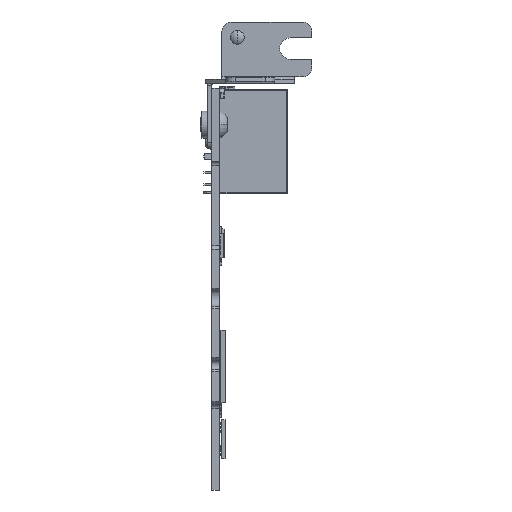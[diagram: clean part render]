
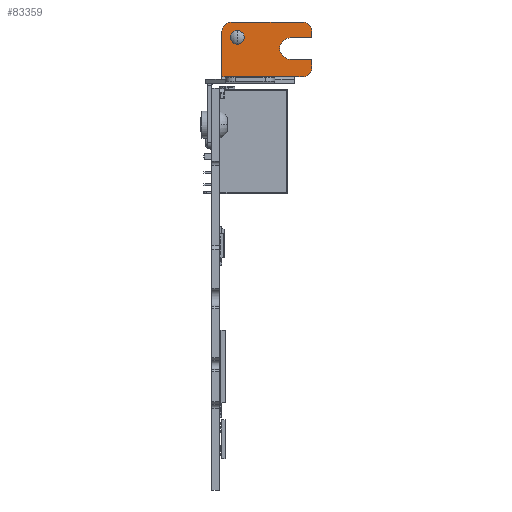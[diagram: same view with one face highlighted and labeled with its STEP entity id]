
A CAD part, front view. The second image highlights one B-rep face of the part: STEP entity #83359.
In plain terms, the highlighted planar face has unit normal (0, -1, 0).
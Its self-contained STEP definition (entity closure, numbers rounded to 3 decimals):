
#447 = VECTOR ( 'NONE', #143612, 1000. ) ;
#452 = CARTESIAN_POINT ( 'NONE',  ( -5.804, 0., 0.5 ) ) ;
#587 = LINE ( 'NONE', #91676, #52734 ) ;
#865 = VECTOR ( 'NONE', #113033, 1000. ) ;
#2711 = DIRECTION ( 'NONE',  ( 1., 0., 0. ) ) ;
#5471 = ORIENTED_EDGE ( 'NONE', *, *, #27098, .F. ) ;
#5554 = LINE ( 'NONE', #28922, #148495 ) ;
#6071 = VERTEX_POINT ( 'NONE', #39357 ) ;
#10633 = LINE ( 'NONE', #89658, #865 ) ;
#11997 = DIRECTION ( 'NONE',  ( -1., 0., 0. ) ) ;
#14680 = DIRECTION ( 'NONE',  ( 0., -1., 0. ) ) ;
#15472 = CARTESIAN_POINT ( 'NONE',  ( 12.789, 0., 8.56 ) ) ;
#15911 = VERTEX_POINT ( 'NONE', #87518 ) ;
#17505 = VERTEX_POINT ( 'NONE', #109790 ) ;
#19774 = CIRCLE ( 'NONE', #38972, 2. ) ;
#22934 = EDGE_CURVE ( 'NONE', #42030, #30703, #19774, .T. ) ;
#25194 = CARTESIAN_POINT ( 'NONE',  ( 12.789, 0., 4.14 ) ) ;
#26619 = ORIENTED_EDGE ( 'NONE', *, *, #34696, .F. ) ;
#27098 = EDGE_CURVE ( 'NONE', #51991, #51183, #587, .T. ) ;
#27418 = DIRECTION ( 'NONE',  ( 0., 0., 1. ) ) ;
#27427 = EDGE_CURVE ( 'NONE', #6071, #147705, #141873, .T. ) ;
#27656 = CARTESIAN_POINT ( 'NONE',  ( 12.789, 0., 11.836 ) ) ;
#28176 = EDGE_LOOP ( 'NONE', ( #110147, #109555, #57542, #111100, #74992, #142267, #5471, #83863, #100131, #123953, #104645, #104388 ) ) ;
#28591 = CARTESIAN_POINT ( 'NONE',  ( -2.624, 0., 8.66 ) ) ;
#28652 = CARTESIAN_POINT ( 'NONE',  ( 9.207, 0., 0.5 ) ) ;
#28922 = CARTESIAN_POINT ( 'NONE',  ( -5.804, 0., 11.836 ) ) ;
#30609 = DIRECTION ( 'NONE',  ( 0., -1., 0. ) ) ;
#30703 = VERTEX_POINT ( 'NONE', #61024 ) ;
#34461 = DIRECTION ( 'NONE',  ( 0., 0., -1. ) ) ;
#34696 = EDGE_CURVE ( 'NONE', #76024, #15911, #148898, .T. ) ;
#35231 = DIRECTION ( 'NONE',  ( 0., -1., 0. ) ) ;
#37571 = CARTESIAN_POINT ( 'NONE',  ( 9.207, 0., 0.5 ) ) ;
#38742 = EDGE_CURVE ( 'NONE', #6071, #41541, #130848, .T. ) ;
#38972 = AXIS2_PLACEMENT_3D ( 'NONE', #80385, #35231, #93196 ) ;
#39357 = CARTESIAN_POINT ( 'NONE',  ( 12.789, 0., 9.836 ) ) ;
#39532 = CIRCLE ( 'NONE', #123735, 1.428 ) ;
#40053 = VECTOR ( 'NONE', #60028, 1000. ) ;
#41541 = VERTEX_POINT ( 'NONE', #129021 ) ;
#41792 = CARTESIAN_POINT ( 'NONE',  ( 8.344, 0., 4.14 ) ) ;
#42030 = VERTEX_POINT ( 'NONE', #88022 ) ;
#42422 = VECTOR ( 'NONE', #2711, 1000. ) ;
#43411 = DIRECTION ( 'NONE',  ( 0., 0., -1. ) ) ;
#46252 = CARTESIAN_POINT ( 'NONE',  ( -2.624, 0., 10.088 ) ) ;
#51183 = VERTEX_POINT ( 'NONE', #108901 ) ;
#51991 = VERTEX_POINT ( 'NONE', #25194 ) ;
#52734 = VECTOR ( 'NONE', #34461, 1000. ) ;
#54576 = LINE ( 'NONE', #41792, #59963 ) ;
#55782 = EDGE_CURVE ( 'NONE', #115896, #107375, #117385, .T. ) ;
#56859 = ORIENTED_EDGE ( 'NONE', *, *, #73359, .F. ) ;
#57542 = ORIENTED_EDGE ( 'NONE', *, *, #58355, .F. ) ;
#58355 = EDGE_CURVE ( 'NONE', #107375, #30703, #5554, .T. ) ;
#59128 = DIRECTION ( 'NONE',  ( 0., 0., -1. ) ) ;
#59963 = VECTOR ( 'NONE', #101231, 1000. ) ;
#60028 = DIRECTION ( 'NONE',  ( -1., 0., 0. ) ) ;
#60790 = CARTESIAN_POINT ( 'NONE',  ( 8.344, 0., 6.35 ) ) ;
#60925 = EDGE_LOOP ( 'NONE', ( #56859, #26619 ) ) ;
#61024 = CARTESIAN_POINT ( 'NONE',  ( -5.804, 0., 9.836 ) ) ;
#61640 = VERTEX_POINT ( 'NONE', #98942 ) ;
#61977 = EDGE_CURVE ( 'NONE', #42030, #147705, #10633, .T. ) ;
#63693 = DIRECTION ( 'NONE',  ( 0., 0., -1. ) ) ;
#64454 = FACE_BOUND ( 'NONE', #60925, .T. ) ;
#66614 = VECTOR ( 'NONE', #11997, 1000. ) ;
#67440 = DIRECTION ( 'NONE',  ( 0., -1., 0. ) ) ;
#69080 = LINE ( 'NONE', #128597, #40053 ) ;
#69508 = AXIS2_PLACEMENT_3D ( 'NONE', #72741, #118722, #63693 ) ;
#69857 = DIRECTION ( 'NONE',  ( 0., 1., 0. ) ) ;
#71178 = EDGE_CURVE ( 'NONE', #17505, #51183, #129082, .T. ) ;
#71721 = AXIS2_PLACEMENT_3D ( 'NONE', #133793, #30609, #43411 ) ;
#71926 = LINE ( 'NONE', #15472, #42422 ) ;
#72043 = AXIS2_PLACEMENT_3D ( 'NONE', #99472, #121357, #97991 ) ;
#72741 = CARTESIAN_POINT ( 'NONE',  ( -2.624, 0., 8.66 ) ) ;
#73359 = EDGE_CURVE ( 'NONE', #15911, #76024, #39532, .T. ) ;
#74992 = ORIENTED_EDGE ( 'NONE', *, *, #95836, .F. ) ;
#76024 = VERTEX_POINT ( 'NONE', #46252 ) ;
#76515 = EDGE_CURVE ( 'NONE', #100375, #41541, #71926, .T. ) ;
#78722 = FACE_OUTER_BOUND ( 'NONE', #28176, .T. ) ;
#80385 = CARTESIAN_POINT ( 'NONE',  ( -3.804, 0., 9.836 ) ) ;
#83359 = ADVANCED_FACE ( 'NONE', ( #64454, #78722 ), #145845, .T. ) ;
#83863 = ORIENTED_EDGE ( 'NONE', *, *, #129894, .T. ) ;
#87518 = CARTESIAN_POINT ( 'NONE',  ( -2.624, 0., 7.232 ) ) ;
#88022 = CARTESIAN_POINT ( 'NONE',  ( -3.804, 0., 11.836 ) ) ;
#89658 = CARTESIAN_POINT ( 'NONE',  ( 9.207, 0., 11.836 ) ) ;
#91676 = CARTESIAN_POINT ( 'NONE',  ( 12.789, 0., 11.836 ) ) ;
#93196 = DIRECTION ( 'NONE',  ( 0., 0., -1. ) ) ;
#95836 = EDGE_CURVE ( 'NONE', #17505, #115896, #69080, .T. ) ;
#97991 = DIRECTION ( 'NONE',  ( 0., 0., -1. ) ) ;
#98942 = CARTESIAN_POINT ( 'NONE',  ( 8.344, 0., 4.14 ) ) ;
#99472 = CARTESIAN_POINT ( 'NONE',  ( 10.789, 0., 9.836 ) ) ;
#100131 = ORIENTED_EDGE ( 'NONE', *, *, #111109, .T. ) ;
#100375 = VERTEX_POINT ( 'NONE', #144272 ) ;
#101231 = DIRECTION ( 'NONE',  ( -1., 0., 0. ) ) ;
#104388 = ORIENTED_EDGE ( 'NONE', *, *, #27427, .T. ) ;
#104645 = ORIENTED_EDGE ( 'NONE', *, *, #38742, .F. ) ;
#107375 = VERTEX_POINT ( 'NONE', #452 ) ;
#108901 = CARTESIAN_POINT ( 'NONE',  ( 12.789, 0., 2.5 ) ) ;
#109222 = AXIS2_PLACEMENT_3D ( 'NONE', #60790, #69857, #116556 ) ;
#109555 = ORIENTED_EDGE ( 'NONE', *, *, #22934, .T. ) ;
#109790 = CARTESIAN_POINT ( 'NONE',  ( 10.789, 0., 0.5 ) ) ;
#110147 = ORIENTED_EDGE ( 'NONE', *, *, #61977, .F. ) ;
#111100 = ORIENTED_EDGE ( 'NONE', *, *, #55782, .F. ) ;
#111109 = EDGE_CURVE ( 'NONE', #61640, #100375, #116429, .T. ) ;
#113033 = DIRECTION ( 'NONE',  ( 1., 0., 0. ) ) ;
#113400 = DIRECTION ( 'NONE',  ( 0., 0., -1. ) ) ;
#115896 = VERTEX_POINT ( 'NONE', #28652 ) ;
#116429 = CIRCLE ( 'NONE', #109222, 2.21 ) ;
#116556 = DIRECTION ( 'NONE',  ( 0., 0., -1. ) ) ;
#117385 = LINE ( 'NONE', #37571, #66614 ) ;
#118722 = DIRECTION ( 'NONE',  ( 0., -1., 0. ) ) ;
#121357 = DIRECTION ( 'NONE',  ( 0., -1., 0. ) ) ;
#121856 = AXIS2_PLACEMENT_3D ( 'NONE', #127710, #14680, #59128 ) ;
#123735 = AXIS2_PLACEMENT_3D ( 'NONE', #28591, #67440, #113400 ) ;
#123953 = ORIENTED_EDGE ( 'NONE', *, *, #76515, .T. ) ;
#127710 = CARTESIAN_POINT ( 'NONE',  ( 10.789, 0., 2.5 ) ) ;
#128597 = CARTESIAN_POINT ( 'NONE',  ( 9.207, 0., 0.5 ) ) ;
#129021 = CARTESIAN_POINT ( 'NONE',  ( 12.789, 0., 8.56 ) ) ;
#129082 = CIRCLE ( 'NONE', #121856, 2. ) ;
#129894 = EDGE_CURVE ( 'NONE', #51991, #61640, #54576, .T. ) ;
#130848 = LINE ( 'NONE', #27656, #447 ) ;
#133793 = CARTESIAN_POINT ( 'NONE',  ( 9.207, 0., 11.836 ) ) ;
#135386 = CARTESIAN_POINT ( 'NONE',  ( 10.789, 0., 11.836 ) ) ;
#141873 = CIRCLE ( 'NONE', #72043, 2. ) ;
#142267 = ORIENTED_EDGE ( 'NONE', *, *, #71178, .T. ) ;
#143612 = DIRECTION ( 'NONE',  ( 0., 0., -1. ) ) ;
#144272 = CARTESIAN_POINT ( 'NONE',  ( 8.344, 0., 8.56 ) ) ;
#145845 = PLANE ( 'NONE',  #71721 ) ;
#147705 = VERTEX_POINT ( 'NONE', #135386 ) ;
#148495 = VECTOR ( 'NONE', #27418, 1000. ) ;
#148898 = CIRCLE ( 'NONE', #69508, 1.428 ) ;
